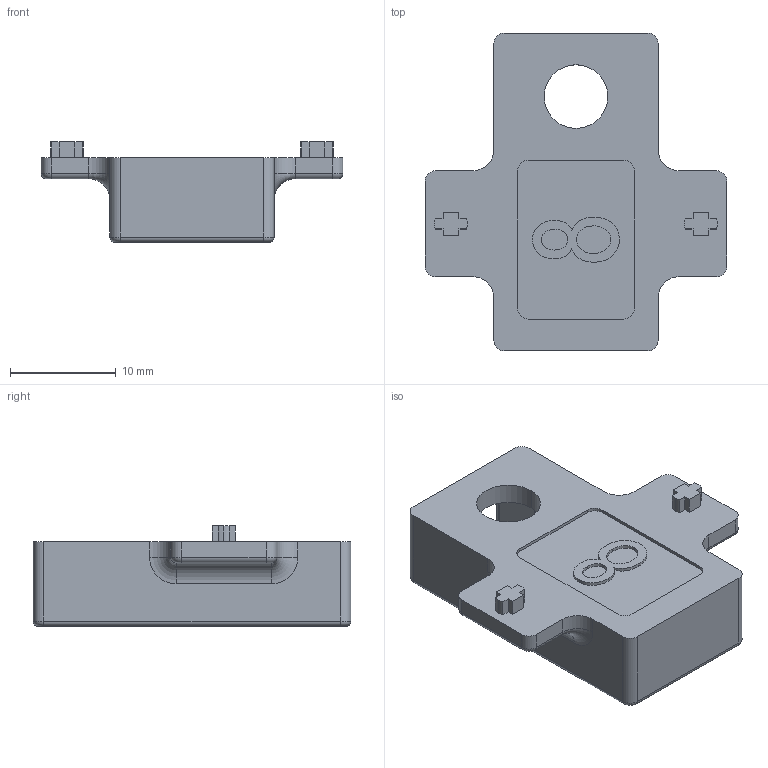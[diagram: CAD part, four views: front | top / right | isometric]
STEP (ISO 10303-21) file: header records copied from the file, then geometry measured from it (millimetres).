
FILE_DESCRIPTION (( 'STEP AP214' ), '1' );
FILE_NAME ('TPL-H-APC-017 09Oct2024.STEP', '2024-10-09T04:52:48', ( '' ), ( '' ), 'SwSTEP 2.0', 'SolidWorks 2023', '' );
FILE_SCHEMA (( 'AUTOMOTIVE_DESIGN' ));
Length unit declared in the file: millimetre
Products named in the file (1): TPL-H-APC-017 09Oct2024
Bounding box: 28.5 x 30 x 9.5 mm (x, y, z)
Volume: 2196.9 mm3; surface area: 2376 mm2
Topology: 1 solids, 1 shells, 151 faces, 376 edges, 228 vertices
Faces by surface type: cylinder 56, plane 51, torus 21, bspline 16, sphere 7
Entity records: 5307 total; most frequent: CARTESIAN_POINT 1726, DIRECTION 750, ORIENTED_EDGE 740, EDGE_CURVE 370, AXIS2_PLACEMENT_3D 276, VERTEX_POINT 228, LINE 198, VECTOR 198
